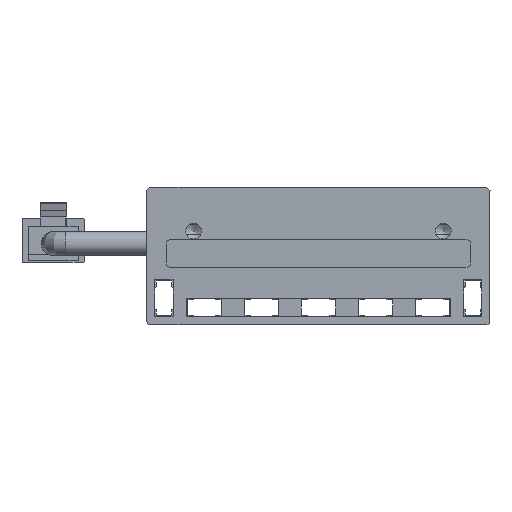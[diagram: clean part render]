
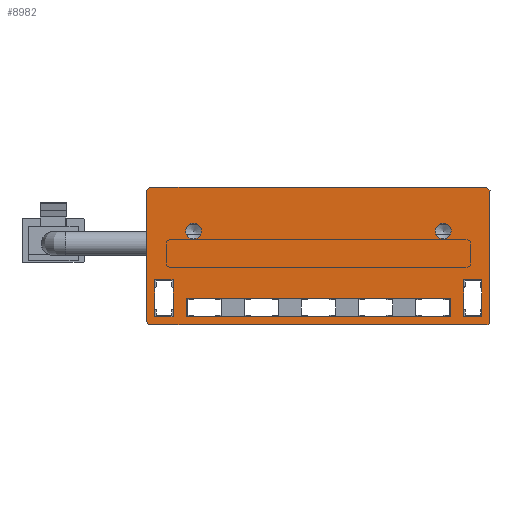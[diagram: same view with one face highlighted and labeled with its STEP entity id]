
A CAD part, front view. The second image highlights one B-rep face of the part: STEP entity #8982.
In plain terms, the highlighted planar face has unit normal (0, -1, 0).
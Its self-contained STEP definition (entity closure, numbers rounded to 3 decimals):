
#72=FACE_BOUND('',#1382,.T.);
#73=FACE_BOUND('',#1383,.T.);
#74=FACE_BOUND('',#1384,.T.);
#75=FACE_BOUND('',#1385,.T.);
#76=FACE_BOUND('',#1386,.T.);
#453=CIRCLE('',#9739,1.265);
#455=CIRCLE('',#9743,1.265);
#457=CIRCLE('',#9759,0.5);
#459=CIRCLE('',#9767,0.5);
#913=FACE_OUTER_BOUND('',#1381,.T.);
#1381=EDGE_LOOP('',(#8141,#8142,#8143,#8144,#8145,#8146,#8147,#8148));
#1382=EDGE_LOOP('',(#8149));
#1383=EDGE_LOOP('',(#8150));
#1384=EDGE_LOOP('',(#8151,#8152,#8153,#8154));
#1385=EDGE_LOOP('',(#8155,#8156,#8157,#8158));
#1386=EDGE_LOOP('',(#8159,#8160,#8161,#8162));
#2379=LINE('',#14772,#3408);
#2382=LINE('',#14778,#3411);
#2385=LINE('',#14784,#3414);
#2388=LINE('',#14788,#3417);
#2391=LINE('',#14796,#3420);
#2394=LINE('',#14802,#3423);
#2397=LINE('',#14808,#3426);
#2400=LINE('',#14812,#3429);
#2403=LINE('',#14820,#3432);
#2406=LINE('',#14826,#3435);
#2409=LINE('',#14832,#3438);
#2412=LINE('',#14836,#3441);
#2415=LINE('',#14844,#3444);
#2419=LINE('',#14856,#3448);
#2422=LINE('',#14862,#3451);
#2425=LINE('',#14868,#3454);
#2428=LINE('',#14874,#3457);
#2431=LINE('',#14880,#3460);
#3408=VECTOR('',#12148,10.);
#3411=VECTOR('',#12153,10.);
#3414=VECTOR('',#12158,10.);
#3417=VECTOR('',#12163,10.);
#3420=VECTOR('',#12168,10.);
#3423=VECTOR('',#12173,10.);
#3426=VECTOR('',#12178,10.);
#3429=VECTOR('',#12183,10.);
#3432=VECTOR('',#12188,10.);
#3435=VECTOR('',#12193,10.);
#3438=VECTOR('',#12198,10.);
#3441=VECTOR('',#12203,10.);
#3444=VECTOR('',#12208,10.);
#3448=VECTOR('',#12220,10.);
#3451=VECTOR('',#12225,10.);
#3454=VECTOR('',#12230,10.);
#3457=VECTOR('',#12235,10.);
#3460=VECTOR('',#12240,10.);
#4280=VERTEX_POINT('',#14753);
#4283=VERTEX_POINT('',#14762);
#4286=VERTEX_POINT('',#14769);
#4287=VERTEX_POINT('',#14771);
#4289=VERTEX_POINT('',#14777);
#4291=VERTEX_POINT('',#14783);
#4294=VERTEX_POINT('',#14793);
#4295=VERTEX_POINT('',#14795);
#4297=VERTEX_POINT('',#14801);
#4299=VERTEX_POINT('',#14807);
#4302=VERTEX_POINT('',#14817);
#4303=VERTEX_POINT('',#14819);
#4305=VERTEX_POINT('',#14825);
#4307=VERTEX_POINT('',#14831);
#4310=VERTEX_POINT('',#14841);
#4311=VERTEX_POINT('',#14843);
#4313=VERTEX_POINT('',#14849);
#4315=VERTEX_POINT('',#14855);
#4317=VERTEX_POINT('',#14861);
#4319=VERTEX_POINT('',#14867);
#4321=VERTEX_POINT('',#14873);
#4323=VERTEX_POINT('',#14879);
#5551=EDGE_CURVE('',#4280,#4280,#453,.T.);
#5555=EDGE_CURVE('',#4283,#4283,#455,.T.);
#5559=EDGE_CURVE('',#4287,#4286,#2379,.T.);
#5562=EDGE_CURVE('',#4289,#4287,#2382,.T.);
#5565=EDGE_CURVE('',#4291,#4289,#2385,.T.);
#5568=EDGE_CURVE('',#4286,#4291,#2388,.T.);
#5571=EDGE_CURVE('',#4295,#4294,#2391,.T.);
#5574=EDGE_CURVE('',#4297,#4295,#2394,.T.);
#5577=EDGE_CURVE('',#4299,#4297,#2397,.T.);
#5580=EDGE_CURVE('',#4294,#4299,#2400,.T.);
#5583=EDGE_CURVE('',#4303,#4302,#2403,.T.);
#5586=EDGE_CURVE('',#4305,#4303,#2406,.T.);
#5589=EDGE_CURVE('',#4307,#4305,#2409,.T.);
#5592=EDGE_CURVE('',#4302,#4307,#2412,.T.);
#5595=EDGE_CURVE('',#4311,#4310,#2415,.T.);
#5598=EDGE_CURVE('',#4313,#4311,#457,.T.);
#5601=EDGE_CURVE('',#4315,#4313,#2419,.T.);
#5604=EDGE_CURVE('',#4317,#4315,#2422,.T.);
#5607=EDGE_CURVE('',#4319,#4317,#2425,.T.);
#5610=EDGE_CURVE('',#4321,#4319,#2428,.T.);
#5613=EDGE_CURVE('',#4323,#4321,#2431,.T.);
#5616=EDGE_CURVE('',#4310,#4323,#459,.T.);
#8141=ORIENTED_EDGE('',*,*,#5616,.T.);
#8142=ORIENTED_EDGE('',*,*,#5613,.T.);
#8143=ORIENTED_EDGE('',*,*,#5610,.T.);
#8144=ORIENTED_EDGE('',*,*,#5607,.T.);
#8145=ORIENTED_EDGE('',*,*,#5604,.T.);
#8146=ORIENTED_EDGE('',*,*,#5601,.T.);
#8147=ORIENTED_EDGE('',*,*,#5598,.T.);
#8148=ORIENTED_EDGE('',*,*,#5595,.T.);
#8149=ORIENTED_EDGE('',*,*,#5551,.T.);
#8150=ORIENTED_EDGE('',*,*,#5555,.T.);
#8151=ORIENTED_EDGE('',*,*,#5592,.T.);
#8152=ORIENTED_EDGE('',*,*,#5589,.T.);
#8153=ORIENTED_EDGE('',*,*,#5586,.T.);
#8154=ORIENTED_EDGE('',*,*,#5583,.T.);
#8155=ORIENTED_EDGE('',*,*,#5580,.T.);
#8156=ORIENTED_EDGE('',*,*,#5577,.T.);
#8157=ORIENTED_EDGE('',*,*,#5574,.T.);
#8158=ORIENTED_EDGE('',*,*,#5571,.T.);
#8159=ORIENTED_EDGE('',*,*,#5568,.T.);
#8160=ORIENTED_EDGE('',*,*,#5565,.T.);
#8161=ORIENTED_EDGE('',*,*,#5562,.T.);
#8162=ORIENTED_EDGE('',*,*,#5559,.T.);
#8527=PLANE('',#9768);
#8982=ADVANCED_FACE('',(#913,#72,#73,#74,#75,#76),#8527,.T.);
#9739=AXIS2_PLACEMENT_3D('',#14754,#12131,#12132);
#9743=AXIS2_PLACEMENT_3D('',#14763,#12141,#12142);
#9759=AXIS2_PLACEMENT_3D('',#14850,#12214,#12215);
#9767=AXIS2_PLACEMENT_3D('',#14884,#12246,#12247);
#9768=AXIS2_PLACEMENT_3D('',#14885,#12248,#12249);
#12131=DIRECTION('center_axis',(0.,1.,0.));
#12132=DIRECTION('ref_axis',(0.,0.,-1.));
#12141=DIRECTION('center_axis',(0.,1.,0.));
#12142=DIRECTION('ref_axis',(0.,0.,-1.));
#12148=DIRECTION('',(0.,0.,-1.));
#12153=DIRECTION('',(1.,0.,0.));
#12158=DIRECTION('',(0.,0.,1.));
#12163=DIRECTION('',(-1.,0.,0.));
#12168=DIRECTION('',(0.,0.,-1.));
#12173=DIRECTION('',(1.,0.,0.));
#12178=DIRECTION('',(0.,0.,1.));
#12183=DIRECTION('',(-1.,0.,0.));
#12188=DIRECTION('',(0.,0.,-1.));
#12193=DIRECTION('',(1.,0.,0.));
#12198=DIRECTION('',(0.,0.,1.));
#12203=DIRECTION('',(-1.,0.,0.));
#12208=DIRECTION('',(1.,0.,0.));
#12214=DIRECTION('center_axis',(0.,-1.,0.));
#12215=DIRECTION('ref_axis',(-1.,0.,0.));
#12220=DIRECTION('',(0.,0.,-1.));
#12225=DIRECTION('',(-0.707,0.,-0.707));
#12230=DIRECTION('',(-1.,0.,0.));
#12235=DIRECTION('',(-0.707,0.,0.707));
#12240=DIRECTION('',(0.,0.,1.));
#12246=DIRECTION('center_axis',(0.,-1.,0.));
#12247=DIRECTION('ref_axis',(0.,0.,-1.));
#12248=DIRECTION('center_axis',(0.,-1.,0.));
#12249=DIRECTION('ref_axis',(1.,0.,0.));
#14753=CARTESIAN_POINT('',(-20.,-267.5,16.265));
#14754=CARTESIAN_POINT('Origin',(-20.,-267.5,15.));
#14762=CARTESIAN_POINT('',(20.,-267.5,16.265));
#14763=CARTESIAN_POINT('Origin',(20.,-267.5,15.));
#14769=CARTESIAN_POINT('',(21.2,-267.5,1.3));
#14771=CARTESIAN_POINT('',(21.2,-267.5,4.2));
#14772=CARTESIAN_POINT('',(21.2,-267.5,4.2));
#14777=CARTESIAN_POINT('',(-21.2,-267.5,4.2));
#14778=CARTESIAN_POINT('',(-21.2,-267.5,4.2));
#14783=CARTESIAN_POINT('',(-21.2,-267.5,1.3));
#14784=CARTESIAN_POINT('',(-21.2,-267.5,1.3));
#14788=CARTESIAN_POINT('',(21.2,-267.5,1.3));
#14793=CARTESIAN_POINT('',(26.2,-267.5,1.3));
#14795=CARTESIAN_POINT('',(26.2,-267.5,7.2));
#14796=CARTESIAN_POINT('',(26.2,-267.5,7.2));
#14801=CARTESIAN_POINT('',(23.3,-267.5,7.2));
#14802=CARTESIAN_POINT('',(23.3,-267.5,7.2));
#14807=CARTESIAN_POINT('',(23.3,-267.5,1.3));
#14808=CARTESIAN_POINT('',(23.3,-267.5,1.3));
#14812=CARTESIAN_POINT('',(26.2,-267.5,1.3));
#14817=CARTESIAN_POINT('',(-23.3,-267.5,1.3));
#14819=CARTESIAN_POINT('',(-23.3,-267.5,7.2));
#14820=CARTESIAN_POINT('',(-23.3,-267.5,7.2));
#14825=CARTESIAN_POINT('',(-26.2,-267.5,7.2));
#14826=CARTESIAN_POINT('',(-26.2,-267.5,7.2));
#14831=CARTESIAN_POINT('',(-26.2,-267.5,1.3));
#14832=CARTESIAN_POINT('',(-26.2,-267.5,1.3));
#14836=CARTESIAN_POINT('',(-23.3,-267.5,1.3));
#14841=CARTESIAN_POINT('',(27.,-267.5,0.));
#14843=CARTESIAN_POINT('',(-27.,-267.5,0.));
#14844=CARTESIAN_POINT('',(-22.,-267.5,0.));
#14849=CARTESIAN_POINT('',(-27.5,-267.5,0.5));
#14850=CARTESIAN_POINT('Origin',(-27.,-267.5,0.5));
#14855=CARTESIAN_POINT('',(-27.5,-267.5,21.5));
#14856=CARTESIAN_POINT('',(-27.5,-267.5,21.5));
#14861=CARTESIAN_POINT('',(-27.,-267.5,22.));
#14862=CARTESIAN_POINT('',(-27.,-267.5,22.));
#14867=CARTESIAN_POINT('',(27.,-267.5,22.));
#14868=CARTESIAN_POINT('',(27.,-267.5,22.));
#14873=CARTESIAN_POINT('',(27.5,-267.5,21.5));
#14874=CARTESIAN_POINT('',(27.5,-267.5,21.5));
#14879=CARTESIAN_POINT('',(27.5,-267.5,0.5));
#14880=CARTESIAN_POINT('',(27.5,-267.5,21.5));
#14884=CARTESIAN_POINT('Origin',(27.,-267.5,0.5));
#14885=CARTESIAN_POINT('Origin',(0.,-267.5,11.));
